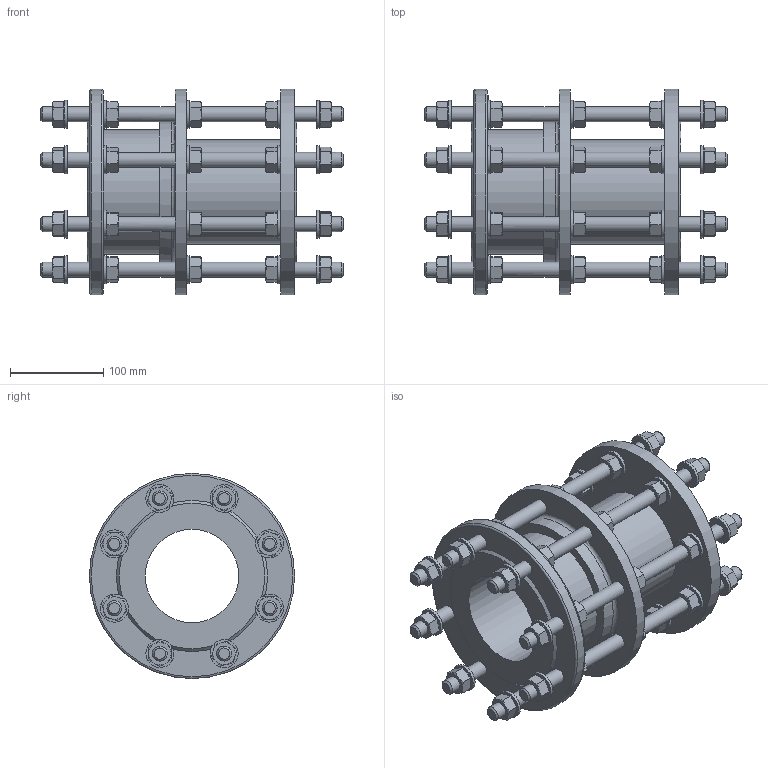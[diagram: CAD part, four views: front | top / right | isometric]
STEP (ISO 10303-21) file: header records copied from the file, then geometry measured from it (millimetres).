
FILE_DESCRIPTION (( 'STEP AP203' ), '1' );
FILE_NAME ('O_265_910_DN100_1XXXXX00_L=225_REV01.step', '2024-10-11T08:10:48', ( '' ), ( '' ), 'SwSTEP 2.0', 'SolidWorks 2022', '' );
FILE_SCHEMA (( 'CONFIG_CONTROL_DESIGN' ));
Length unit declared in the file: millimetre
Products named in the file (1): O_265_910_DN100_1XXXXX00_L=225_REV01
Bounding box: 325 x 220 x 220 mm (x, y, z)
Volume: 2728216.2 mm3; surface area: 479555.7 mm2
Topology: 1 solids, 1 shells, 1038 faces, 2289 edges, 1368 vertices
Faces by surface type: plane 640, cone 259, cylinder 136, torus 3
Full cylindrical faces by diameter (mm): 16 x48, 24 x40, 30 x40, 100 x1, 112 x1, 133 x1, 220 x3
Entity records: 28688 total; most frequent: CARTESIAN_POINT 7312, DIRECTION 4393, ORIENTED_EDGE 4118, EDGE_CURVE 2059, AXIS2_PLACEMENT_3D 1783, EDGE_LOOP 1343, VERTEX_POINT 1294, FACE_OUTER_BOUND 1175
